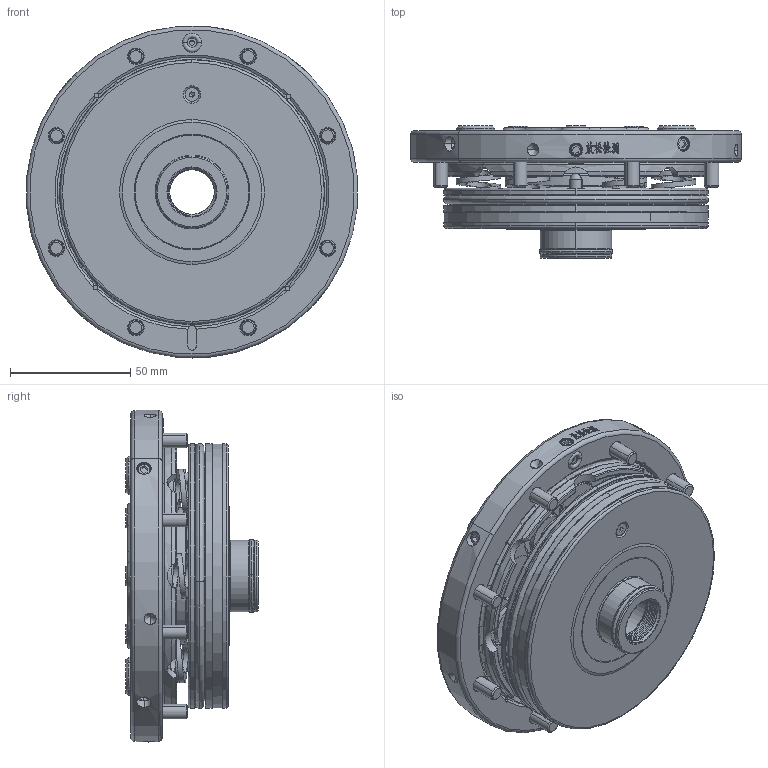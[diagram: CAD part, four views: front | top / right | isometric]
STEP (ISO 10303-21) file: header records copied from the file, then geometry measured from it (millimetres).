
FILE_DESCRIPTION (( 'STEP AP214' ), '1' );
FILE_NAME ('LQNCZ-20S杅耀.STEP', '2022-01-15T02:15:35', ( 'set' ), ( '' ), 'SwSTEP 2.0', 'SolidWorks 2018', '' );
FILE_SCHEMA (( 'AUTOMOTIVE_DESIGN' ));
Length unit declared in the file: millimetre
Products named in the file (1): LQNCZ-20S杅耀
Bounding box: 137.43 x 54.86 x 137.95 mm (x, y, z)
Volume: 325670.9 mm3; surface area: 123489.1 mm2
Topology: 28 solids, 28 shells, 1381 faces, 3923 edges, 2692 vertices
Faces by surface type: cylinder 441, cone 411, plane 316, torus 150, bspline 45, sphere 18
Entity records: 89049 total; most frequent: CARTESIAN_POINT 38713, ORIENTED_EDGE 7736, DIRECTION 6833, EDGE_CURVE 3868, AXIS2_PLACEMENT_3D 2829, VERTEX_POINT 2688, EDGE_LOOP 1558, CIRCLE 1492
